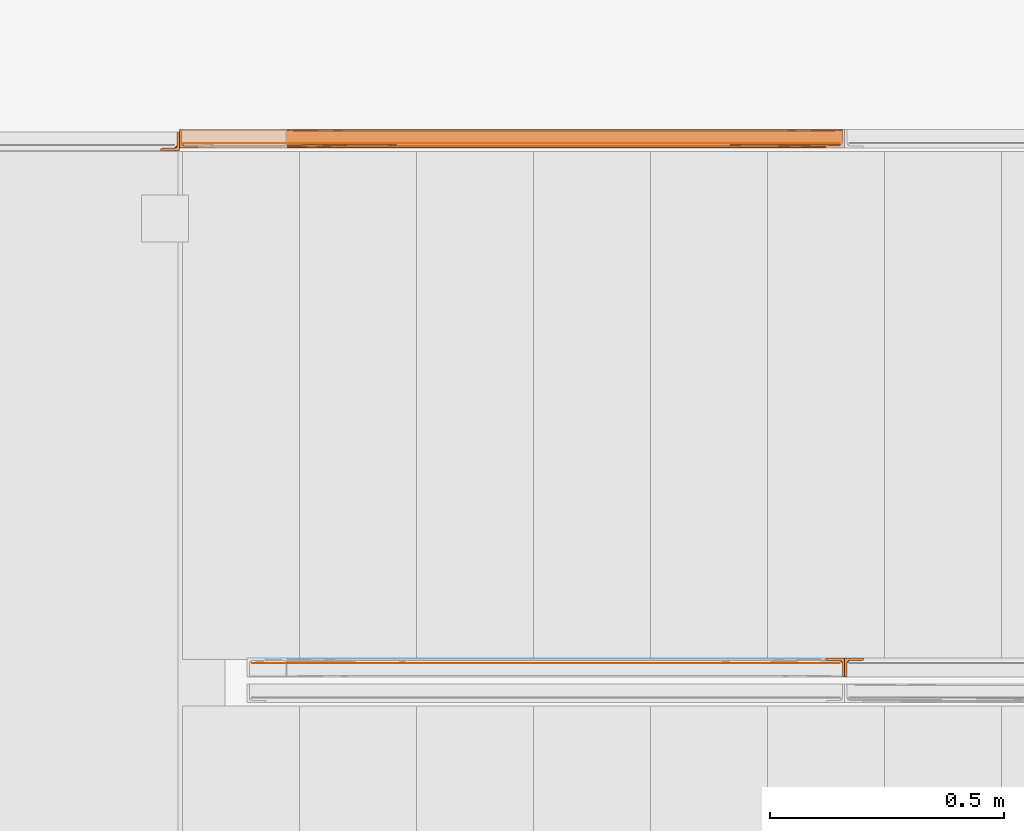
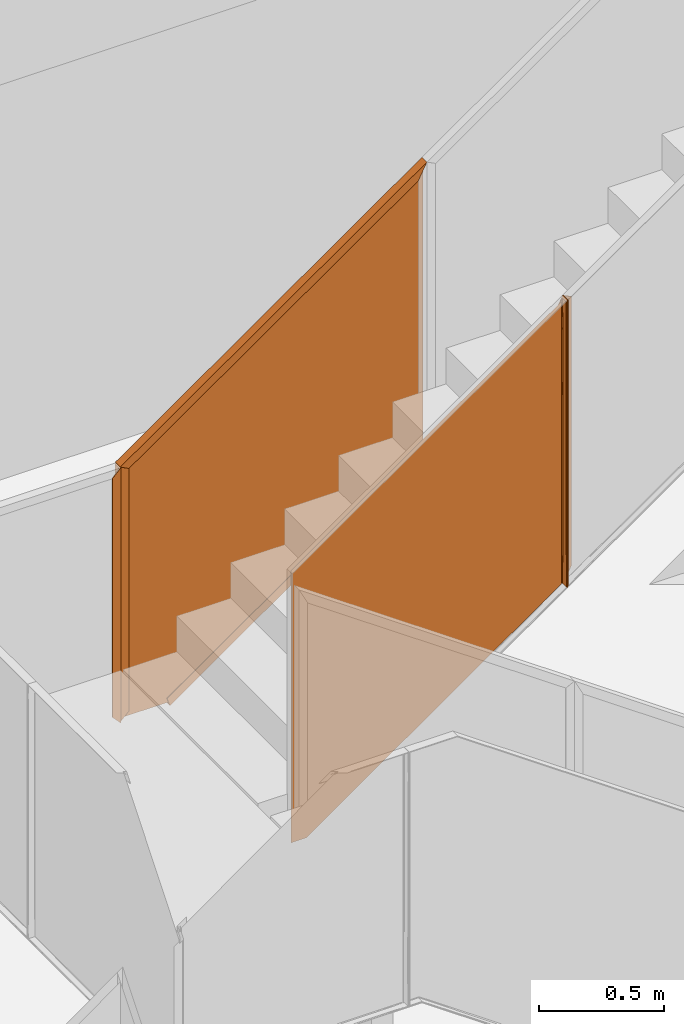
# One storey, part 221 of 230: 8 proxies.
"""IFC4X3_ADD2 building model written with IfcOpenShell, lengths in millimetres."""

from ifc_helpers import new_model, si_unit, direction, frame, origin_with_axes, place, context, subcontext, project, spatial, triangles, polygons, source, transform, mapped, material, type_object, type_shapes, element, save


model = new_model("IFC4X3_ADD2")

# Units and contexts
model_context = context("Model", 3, precision=1e-05, world=origin_with_axes(), true_north=direction((0.0, 1.0)))
body_context = subcontext(model_context, "Body", "Model", "MODEL_VIEW")
ifc_project = project(units=[si_unit("LENGTHUNIT", "METRE", prefix="MILLI"), si_unit("AREAUNIT", "SQUARE_METRE"), si_unit("VOLUMEUNIT", "CUBIC_METRE"), si_unit("PLANEANGLEUNIT", "RADIAN"), si_unit("TIMEUNIT", "SECOND"), si_unit("MASSUNIT", "GRAM")], contexts=[model_context])

# Site, building, storey
site_placement = place(None, origin_with_axes())
site = spatial("IfcSite", under=ifc_project, at=site_placement, Name="Site", CompositionType="ELEMENT")
building_placement = place(site_placement, origin_with_axes())
building = spatial("IfcBuilding", under=site, at=building_placement, Name="IFC Building Story")
storey_placement = place(building_placement, origin_with_axes())
storey = spatial("IfcBuildingStorey", under=building, at=storey_placement, Name="ETAGE 00 (0)", Elevation=0.0)

# Proxies
ifc_material = material(Name="<Unnamed>")
building_element_proxy_type_1 = type_object("IfcBuildingElementProxyType", Name="103", PredefinedType="NOTDEFINED")
shared_shape_1 = source(origin_with_axes(), body_context, "Body", "Tessellation", [
    polygons([(0.0, 2.00000000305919, 40.0), (1164.80653467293, 1.99999993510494, 857.856533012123), (1164.80653467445, 0.0, 857.856533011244), (0.0, 0.0, 40.0), (12.6119515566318, 0.0, 0.0), (12.6119515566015, 40.0, 0.0), (11.981353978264, 40.0, 2.00000000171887), (11.845982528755, 39.9646996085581, 2.4293433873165), (11.4159733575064, 39.3589417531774, 3.79315823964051), (11.1305348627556, 38.2618519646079, 4.69845348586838), (11.0354576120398, 36.9999999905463, 5.00000000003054), (11.0354576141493, 10.9999999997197, 4.99999999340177), (10.9889868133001, 9.73430308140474, 5.14738654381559), (10.6049429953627, 7.3011114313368, 6.3654179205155), (9.99395303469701, 5.70378055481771, 8.30323050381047), (9.14366488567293, 5.00000000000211, 10.9999999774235), (0.945896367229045, 5.000000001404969, 36.9999999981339), (0.8105277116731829, 4.96470079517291, 37.429334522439), (0.380518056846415, 4.35894457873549, 38.793150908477), (0.09507657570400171, 3.26184422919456, 39.6984556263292), (1204.80653467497, 40.0, 837.033850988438), (1202.80653467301, 40.0, 838.074985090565), (1053.95338708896, 40.0, 733.5656119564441), (160.834501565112, 40.0, 106.509373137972), (1204.80653467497, 0.0, 837.033850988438), (1167.39697500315, 4.96796925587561, 856.508035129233), (1165.95391269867, 4.32535068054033, 857.2592458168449), (1021.94895490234, 5.000000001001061, 753.8829778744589), (1165.08448212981, 3.23953783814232, 857.711842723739), (1167.80653468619, 5.00000000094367, 856.294831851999), (146.803651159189, 4.9996955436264, 139.411604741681), (897.281536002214, 4.99999999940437, 634.567812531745), (1193.80653468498, 4.999999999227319, 842.7600885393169), (902.61376541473, 10.9999999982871, 630.9775146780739), (1199.80653467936, 10.9999999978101, 839.636686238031), (1199.73424392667, 10.0780924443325, 839.674318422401), (899.961920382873, 7.98736429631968, 632.762071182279), (1198.82353729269, 7.76489731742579, 840.1484022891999), (1196.7581890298, 5.83075670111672, 841.223554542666), (306.973272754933, 7.98562322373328, 216.443502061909), (308.228226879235, 10.9999999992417, 213.659171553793), (603.456973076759, 7.97077391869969, 424.621195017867), (1199.8065346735, 36.9999999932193, 839.6366862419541), (1202.3961771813, 39.96799025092, 838.288603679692), (1200.9545983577, 39.3275120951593, 839.039042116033), (1200.08550223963, 38.2435199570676, 839.491464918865)], [[[1, 2, 3, 4]], [[17, 18, 19]], [[17, 19, 20]], [[17, 20, 1]], [[17, 1, 4]], [[4, 5, 16]], [[4, 16, 17]], [[5, 15, 16]], [[5, 14, 15]], [[5, 13, 14]], [[5, 12, 13]], [[5, 7, 8]], [[5, 8, 9]], [[5, 9, 10]], [[5, 10, 11]], [[5, 11, 12]], [[5, 6, 7]], [[24, 7, 6]], [[6, 23, 24]], [[6, 21, 23]], [[21, 22, 23]], [[5, 4, 3, 25]], [[26, 27, 28]], [[27, 29, 28]], [[28, 30, 26]], [[28, 29, 2]], [[2, 1, 31, 28]], [[1, 20, 31]], [[18, 17, 31]], [[31, 19, 18]], [[31, 20, 19]], [[32, 33, 30]], [[32, 30, 28]], [[31, 17, 16]], [[16, 32, 28]], [[16, 28, 31]], [[34, 35, 36]], [[36, 37, 34]], [[38, 39, 37]], [[37, 36, 38]], [[14, 13, 40]], [[41, 40, 13]], [[13, 12, 41]], [[15, 14, 40]], [[16, 15, 40]], [[40, 42, 32, 16]], [[33, 32, 37]], [[37, 39, 33]], [[42, 40, 41]], [[42, 41, 34]], [[34, 37, 42]], [[42, 37, 32]], [[41, 12, 11]], [[11, 34, 41]], [[11, 43, 34]], [[43, 35, 34]], [[44, 45, 23]], [[45, 46, 23]], [[23, 22, 44]], [[23, 46, 43]], [[43, 11, 24, 23]], [[11, 10, 24]], [[8, 7, 24]], [[24, 9, 8]], [[24, 10, 9]], [[6, 5, 25, 21]], [[22, 21, 25]], [[25, 35, 43]], [[25, 43, 46]], [[25, 46, 45]], [[25, 45, 44]], [[25, 44, 22]], [[25, 36, 35]], [[25, 38, 36]], [[25, 39, 38]], [[25, 33, 39]], [[25, 3, 30]], [[25, 30, 33]], [[3, 2, 29]], [[3, 29, 27]], [[3, 27, 26]], [[3, 26, 30]]]),
])
type_shapes(building_element_proxy_type_1, [shared_shape_1])
proxy_1_placement = place(storey_placement, frame((35131.8829430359, 2977.49996376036, 1660.0), z_axis=(0.0, 0.0, 1.0), x_axis=(1.0, 0.0, 0.0)))
element("IfcBuildingElementProxy", 1, at=proxy_1_placement, inside=storey, type_object=building_element_proxy_type_1, material=ifc_material, Name="52", ObjectType="52", context=body_context, shape_type="MappedRepresentation", body=[
    mapped(shared_shape_1, transform((0.0, 0.0, 0.0))),
])
building_element_proxy_type_2 = type_object("IfcBuildingElementProxyType", Name="153", PredefinedType="NOTDEFINED")
shared_shape_2 = source(origin_with_axes(), body_context, "Body", "Tessellation", [
    polygons([(4.42277587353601e-07, 40.0009010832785, 1332.74482679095), (4.4232523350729e-07, 38.0009010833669, 1332.74482679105), (5.57200110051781e-08, 38.0009010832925, 185.796894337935), (0.0, 38.0009010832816, 20.8226821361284), (0.0, 40.0009010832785, 20.8226821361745), (40.00000029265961, 0.0006917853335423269, 0.0), (38.0000011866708, 0.0, 1.04113363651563), (38.0000011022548, 0.00016314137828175, 177.788406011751), (38.0000005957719, 0.00114198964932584, 1238.27204018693), (38.0000005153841, 0.00129734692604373, 1406.58602109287), (40.0, 0.00199368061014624, 1410.47239973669), (40.00000043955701, 40.00090108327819, 1410.47239974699), (36.3467178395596, 0.281107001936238, 1403.37337999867), (35.4667239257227, 1.01508266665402, 1401.66338521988), (35.0903735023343, 1.98140044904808, 1400.93206509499), (35.0000004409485, 3.00090108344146, 1400.75645312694), (35.0000004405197, 29.0009010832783, 1400.75645312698), (34.6868942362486, 31.5942216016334, 1400.14802849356), (34.0963655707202, 32.9282815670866, 1399.00051949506), (33.5651403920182, 33.4854203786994, 1397.96824839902), (33.07562950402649, 33.9988100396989, 1397.01703606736), (31.7072711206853, 34.5021456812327, 1394.35805666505), (30.6440078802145, 34.8932554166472, 1392.29193488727), (29.7282128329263, 34.982978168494, 1390.51237172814), (29.0000004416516, 35.0009010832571, 1389.09731718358), (3.00000044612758, 35.0009010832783, 1338.57439476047), (1.33448367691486, 35.2814912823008, 1335.33798035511), (0.47237910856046, 35.9988992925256, 1333.66274796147), (0.09314658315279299, 36.959886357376, 1332.92582736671), (32.4612661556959, 31.5836981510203, 873.884858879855), (32.2870111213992, 31.7577010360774, 699.765883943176), (32.1306647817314, 31.9135198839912, 525.762111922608), (32.0383469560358, 32.0043205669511, 351.861812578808), (34.9979570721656, 28.9988891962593, 352.141239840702), (35.002398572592, 29.0032628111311, 876.4488464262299), (35.0000000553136, 29.0009010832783, 177.372037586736), (35.0000000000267, 29.0009010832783, 2.6028353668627), (34.1954201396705, 32.2358849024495, 3.02167313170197), (32.0617288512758, 32.0092459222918, 177.997269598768), (32.4803724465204, 34.0456118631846, 3.91447045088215), (30.9001291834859, 34.7491047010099, 4.737093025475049), (29.0000000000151, 35.0009010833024, 5.726237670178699), (29.0000000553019, 35.0009010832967, 178.647622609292), (35.0005034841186, 29.001196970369, 1051.2180485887), (34.901547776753, 29.2269708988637, 1225.85467705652), (31.6880616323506, 34.6325266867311, 1046.85348320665), (32.987223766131, 32.4238872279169, 1048.58413854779), (35.0000003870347, 29.0009010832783, 1225.987250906), (28.9992194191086, 35.0001089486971, 1043.25454730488), (3.00000000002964, 35.000901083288, 19.2609809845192), (3.00000005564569, 35.0009010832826, 185.164645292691), (3.0000003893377, 35.0009010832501, 1180.58663114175), (1.08111228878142, 35.612567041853, 20.2598907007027), (0.315375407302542, 36.5579746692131, 20.6585080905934), (36.0821918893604, 0.6104639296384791, 2.03948192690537), (35.0000000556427, 3.00090108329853, 178.420655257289), (35.3160064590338, 1.55572382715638, 2.4383328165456), (35.000000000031, 3.00090108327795, 2.60283536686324), (40.0, 40.00090108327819, 1.1410387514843e-07)], [[[3, 4, 5]], [[3, 5, 1]], [[1, 2, 3]], [[9, 10, 11]], [[11, 8, 9]], [[11, 6, 8]], [[6, 7, 8]], [[26, 27, 28]], [[26, 28, 29]], [[26, 29, 2]], [[26, 2, 1]], [[1, 12, 25]], [[1, 25, 26]], [[12, 24, 25]], [[12, 23, 24]], [[12, 22, 23]], [[12, 21, 22]], [[12, 20, 21]], [[12, 19, 20]], [[12, 18, 19]], [[12, 17, 18]], [[12, 10, 13]], [[12, 13, 14]], [[12, 14, 15]], [[12, 15, 16]], [[12, 16, 17]], [[12, 11, 10]], [[32, 33, 34]], [[34, 31, 32]], [[34, 35, 31]], [[35, 30, 31]], [[36, 37, 38]], [[38, 39, 36]], [[38, 40, 39]], [[40, 41, 39]], [[42, 43, 39]], [[39, 41, 42]], [[44, 45, 46, 47]], [[35, 30, 47]], [[20, 19, 48]], [[18, 17, 48]], [[48, 19, 18]], [[39, 33, 34]], [[32, 33, 43]], [[43, 31, 32]], [[43, 30, 31]], [[43, 49, 30]], [[25, 24, 46]], [[23, 22, 46]], [[46, 24, 23]], [[49, 46, 30]], [[46, 47, 30]], [[21, 20, 45]], [[45, 46, 22]], [[45, 22, 21]], [[46, 49, 25]], [[33, 39, 43]], [[34, 36, 39]], [[48, 45, 20]], [[47, 44, 35]], [[45, 48, 44]], [[43, 42, 50]], [[43, 50, 51]], [[51, 52, 49]], [[51, 49, 43]], [[52, 26, 25]], [[52, 25, 49]], [[53, 3, 51]], [[54, 4, 3]], [[3, 53, 54]], [[51, 50, 53]], [[52, 51, 3, 2]], [[2, 29, 52]], [[28, 27, 52]], [[52, 29, 28]], [[27, 26, 52]], [[55, 56, 8]], [[57, 58, 56]], [[56, 55, 57]], [[8, 7, 55]], [[9, 8, 56, 16]], [[16, 15, 9]], [[14, 13, 9]], [[9, 15, 14]], [[13, 10, 9]], [[12, 1, 5, 59]], [[59, 6, 11, 12]], [[48, 17, 16]], [[16, 44, 48]], [[16, 35, 44]], [[35, 16, 56]], [[56, 34, 35]], [[56, 36, 34]], [[56, 58, 37]], [[56, 37, 36]], [[37, 58, 57]], [[37, 57, 55]], [[37, 55, 7]], [[37, 7, 6]], [[37, 6, 59]], [[59, 38, 37]], [[59, 40, 38]], [[59, 41, 40]], [[59, 42, 41]], [[59, 5, 4]], [[59, 4, 54]], [[59, 54, 53]], [[59, 53, 50]], [[59, 50, 42]]]),
])
type_shapes(building_element_proxy_type_2, [shared_shape_2])
proxy_2_placement = place(storey_placement, frame((36296.6894777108, 1847.49906267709, 2507.03385087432), z_axis=(0.0, 0.0, 1.0), x_axis=(1.0, 0.0, 0.0)))
element("IfcBuildingElementProxy", 2, at=proxy_2_placement, inside=storey, type_object=building_element_proxy_type_2, material=ifc_material, Name="82", ObjectType="82", context=body_context, shape_type="MappedRepresentation", body=[
    mapped(shared_shape_2, transform((0.0, 0.0, 0.0))),
])
building_element_proxy_type_3 = type_object("IfcBuildingElementProxyType", Name="155", PredefinedType="NOTDEFINED")
shared_shape_3 = source(origin_with_axes(), body_context, "Body", "Tessellation", [
    polygons([(40.0, 40.000001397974, 76.8392850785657), (40.0, 38.0000013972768, 76.8392850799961), (40.0000004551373, 38.0000013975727, 1389.88768381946), (40.0000004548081, 40.000001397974, 1389.8876838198), (39.7213707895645, 36.7600301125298, 1390.03107163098), (38.8494314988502, 35.6724200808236, 1390.47978719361), (37.405197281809, 35.0313152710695, 1391.22301596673), (37.0000004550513, 35.0000013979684, 1391.4315375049), (11.0000004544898, 35.0000013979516, 1404.81160278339), (8.04045072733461, 34.1679815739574, 1406.33464003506), (5.97965068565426, 32.2340720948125, 1407.39516461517), (5.07065957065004, 29.9128861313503, 1407.86294770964), (5.00000045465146, 29.0000013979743, 1407.8993101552), (5.00000045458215, 3.00000139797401, 1407.89931015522), (4.71885062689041, 1.75022928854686, 1408.04399488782), (3.84773727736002, 0.667139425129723, 1408.49228540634), (2.40711706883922, 0.0312653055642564, 1409.23365434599), (2.00000030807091, 2.06117217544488e-05, 1409.44316391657), (4.05538071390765e-07, 3.03178033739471e-05, 1410.47239965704), (4.54678581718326e-07, 40.000001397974, 1410.47239963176), (2.00000028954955, 1.66343321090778e-05, 1233.74301390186), (2.00000017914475, 2.37633323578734e-06, 179.542114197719), (2.00000016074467, 0.0, 3.84196453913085), (1.23230279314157e-08, 9.640200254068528e-06, 0.0), (5.00000039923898, 29.000001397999, 1233.11251021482), (5.000000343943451, 29.0000013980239, 1058.32571027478), (5.00000012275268, 29.0000013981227, 359.178510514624), (5.00000006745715, 29.0000013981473, 184.391710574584), (5.00000001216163, 29.0000013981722, 9.60491063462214), (5.00000001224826, 3.00000139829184, 9.6049106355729), (10.997497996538, 35.0025443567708, 194.572347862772), (7.89890493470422, 31.9498808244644, 363.072218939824), (8.039691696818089, 32.0803852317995, 710.179382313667), (8.0629280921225, 32.0992396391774, 883.691629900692), (8.02210132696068, 32.0550551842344, 1057.45364170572), (11.0094582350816, 34.9903890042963, 1230.15073958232), (7.953902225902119, 32.0150531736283, 1231.64905297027), (9.22424123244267, 34.7498477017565, 191.800172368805), (7.63753256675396, 32.5974938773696, 189.000509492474), (9.38675135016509, 34.6254378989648, 18.0317815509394), (8.19333550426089, 34.34835103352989, 15.7392510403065), (7.40604262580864, 33.8031895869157, 14.2268754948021), (11.0000000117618, 35.0000013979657, 21.1308033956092), (6.55964525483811, 33.2171011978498, 12.6009612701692), (5.46901705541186, 31.5743496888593, 10.5058839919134), (5.060063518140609, 29.9951337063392, 9.72029155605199), (37.0000004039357, 35.0000013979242, 1226.3871376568), (37.0000000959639, 35.0000013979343, 236.120738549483), (37.000000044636, 35.0000013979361, 71.0763387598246), (39.9082051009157, 37.1612999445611, 76.6629486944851), (39.5766276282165, 36.3530431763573, 76.0259942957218), (38.1963335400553, 35.244925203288, 73.3744740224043), (1.22883761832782e-08, 40.00000139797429, 0.0), (4.90505204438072, 2.14444285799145, 9.42251728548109), (4.56937355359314, 1.33135548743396, 8.7776849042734), (3.19823281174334, 0.238019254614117, 6.143748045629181)], [[[1, 2, 3, 4]], [[18, 19, 20]], [[20, 13, 14]], [[20, 14, 15]], [[20, 15, 16]], [[20, 16, 17]], [[20, 17, 18]], [[20, 12, 13]], [[20, 11, 12]], [[20, 10, 11]], [[20, 9, 10]], [[20, 4, 8]], [[20, 8, 9]], [[4, 3, 5]], [[4, 5, 6]], [[4, 6, 7]], [[4, 7, 8]], [[22, 23, 24]], [[24, 21, 22]], [[24, 19, 21]], [[19, 18, 21]], [[28, 29, 30]], [[30, 27, 28]], [[30, 26, 27]], [[30, 14, 26]], [[14, 25, 26]], [[14, 13, 25]], [[34, 35, 36]], [[36, 33, 34]], [[36, 32, 33]], [[36, 31, 32]], [[33, 32, 27]], [[27, 34, 33]], [[27, 26, 34]], [[26, 35, 34]], [[9, 36, 37]], [[37, 10, 9]], [[25, 13, 12]], [[12, 37, 25]], [[11, 10, 37]], [[37, 12, 11]], [[31, 38, 32]], [[38, 39, 32]], [[40, 41, 39]], [[39, 38, 40]], [[41, 42, 39]], [[43, 40, 38]], [[39, 28, 27]], [[42, 44, 28]], [[45, 46, 28]], [[46, 29, 28]], [[28, 44, 45]], [[37, 35, 26]], [[35, 37, 36]], [[26, 25, 37]], [[28, 39, 42]], [[27, 32, 39]], [[38, 31, 43]], [[36, 9, 8]], [[36, 8, 47]], [[47, 48, 31]], [[47, 31, 36]], [[48, 49, 43]], [[48, 43, 31]], [[7, 6, 47]], [[6, 5, 47]], [[47, 8, 7]], [[47, 5, 3]], [[3, 2, 48, 47]], [[2, 50, 48]], [[51, 52, 48]], [[48, 50, 51]], [[52, 49, 48]], [[53, 1, 4, 20]], [[20, 19, 24, 53]], [[17, 16, 21]], [[16, 15, 21]], [[21, 18, 17]], [[21, 15, 14]], [[14, 30, 22, 21]], [[30, 54, 22]], [[55, 56, 22]], [[22, 54, 55]], [[56, 23, 22]], [[49, 52, 51]], [[49, 51, 50]], [[49, 50, 2]], [[49, 2, 1]], [[1, 53, 43]], [[1, 43, 49]], [[53, 40, 43]], [[53, 41, 40]], [[53, 42, 41]], [[53, 44, 42]], [[53, 45, 44]], [[53, 46, 45]], [[53, 29, 46]], [[53, 23, 56]], [[53, 56, 55]], [[53, 55, 54]], [[53, 54, 30]], [[53, 30, 29]], [[53, 24, 23]]]),
])
type_shapes(building_element_proxy_type_3, [shared_shape_3])
proxy_3_placement = place(storey_placement, frame((36336.6894776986, 1847.49996236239, 2507.03385098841), z_axis=(0.0, 0.0, 1.0), x_axis=(1.0, 0.0, 0.0)))
element("IfcBuildingElementProxy", 3, at=proxy_3_placement, inside=storey, type_object=building_element_proxy_type_3, material=ifc_material, Name="83", ObjectType="83", context=body_context, shape_type="MappedRepresentation", body=[
    mapped(shared_shape_3, transform((0.0, 0.0, 0.0))),
])
building_element_proxy_type_4 = type_object("IfcBuildingElementProxyType", Name="165", PredefinedType="NOTDEFINED")
shared_shape_4 = source(origin_with_axes(), body_context, "Body", "Tessellation", [
    triangles([(0.0, 0.0, 0.0), (70.8371296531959, 0.0, 0.0), (1255.49999955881, 0.0, 831.7600885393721), (1255.4999999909, 0.0, 2215.13116805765), (0.0, 0.0, 1334.85211530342)], [[1, 2, 3], [1, 3, 4], [1, 4, 5]]),
])
type_shapes(building_element_proxy_type_4, [shared_shape_4])
proxy_4_placement = place(storey_placement, frame((35070.1894781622, 1876.49996375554, 1680.99999999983), z_axis=(0.0, 0.0, 1.0), x_axis=(1.0, 0.0, 0.0)))
element("IfcBuildingElementProxy", 4, at=proxy_4_placement, inside=storey, type_object=building_element_proxy_type_4, material=ifc_material, Name="88", ObjectType="88", context=body_context, shape_type="MappedRepresentation", body=[
    mapped(shared_shape_4, transform((0.0, 0.0, 0.0))),
])
building_element_proxy_type_5 = type_object("IfcBuildingElementProxyType", Name="175", PredefinedType="NOTDEFINED")
shared_shape_5 = source(origin_with_axes(), body_context, "Body", "Tessellation", [
    polygons([(0.0, 2.00000000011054, 40.0), (0.0, 1.9999999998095, 1210.0), (0.0, 0.0, 1210.0), (0.0, 0.0, 40.0), (38.0000000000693, 0.0, 0.0), (38.0000000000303, 40.0, 0.0), (36.4932918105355, 39.6219260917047, 1.58600862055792), (35.3911113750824, 38.5300254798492, 2.74619855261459), (35.0520013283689, 37.5839856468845, 3.10315649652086), (35.000000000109, 37.0, 3.15789473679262), (35.000000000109, 11.0, 3.15789473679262), (34.4323186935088, 8.35650851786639, 3.75545400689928), (33.1669455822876, 6.597134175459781, 5.08742570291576), (31.2456843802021, 5.400557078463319, 7.109805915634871), (29.0000000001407, 4.99999999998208, 9.47368421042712), (3.0000000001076, 5.00000000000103, 36.8421052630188), (1.49329180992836, 4.62192609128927, 38.4281138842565), (0.391111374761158, 3.53002547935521, 39.5883038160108), (0.05200132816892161, 2.58398564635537, 39.9452617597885), (40.0, 0.0, 0.0), (40.0, 40.0, 0.0), (35.000000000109, 37.0, 313.618421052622), (35.000000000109, 37.0, 1244.99999999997), (35.000000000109, 11.0, 1244.99999999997), (35.000000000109, 11.0, 934.539473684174), (35.000000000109, 11.0, 624.07894736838), (35.000000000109, 11.0, 313.618421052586), (40.0, 0.0, 1250.0), (0.947512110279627, 4.22997836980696, 1210.94751210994), (0.295147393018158, 3.3451112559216, 1210.29514739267), (3.0000000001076, 5.0, 918.96052631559), (3.0000000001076, 5.0, 1212.99999999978), (3.00000000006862, 5.00000000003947, 330.881578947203), (29.00000000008, 5.00000000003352, 931.618421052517), (29.0000000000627, 5.00000000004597, 1238.99999999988), (31.9210373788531, 5.70547924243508, 1241.9210373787), (30.9601866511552, 5.30081986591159, 1240.96018665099), (32.1333421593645, 8.093872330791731, 933.14391763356), (32.1461947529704, 8.12623497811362, 315.152471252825), (32.0108407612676, 7.991564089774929, 624.15734856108), (34.417077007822, 8.32391448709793, 1244.41707700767), (33.4621327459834, 6.89689057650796, 1243.46213274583), (33.2723823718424, 6.75019573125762, 1243.27238237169), (35.9475121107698, 39.2299783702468, 1245.94751211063), (35.2951473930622, 38.3451112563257, 1245.29514739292), (38.0000000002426, 40.0, 936.000000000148), (38.0000000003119, 40.0, 1248.00000000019), (38.00000000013, 40.0, 312.000000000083), (40.0, 40.0, 1250.0)], [[[1, 2, 3, 4]], [[15, 16, 17]], [[15, 17, 18]], [[15, 18, 19]], [[15, 19, 1]], [[15, 1, 4]], [[15, 4, 5]], [[5, 14, 15]], [[5, 13, 14]], [[5, 12, 13]], [[5, 11, 12]], [[5, 6, 7]], [[5, 7, 8]], [[5, 8, 9]], [[5, 9, 10]], [[5, 10, 11]], [[5, 20, 21, 6]], [[26, 27, 22]], [[22, 25, 26]], [[22, 23, 25]], [[23, 24, 25]], [[27, 11, 10]], [[27, 10, 22]], [[20, 5, 4]], [[20, 4, 3]], [[20, 3, 28]], [[29, 30, 31]], [[31, 32, 29]], [[31, 30, 2]], [[2, 1, 33, 31]], [[19, 18, 33]], [[33, 1, 19]], [[17, 16, 33]], [[33, 18, 17]], [[34, 35, 32]], [[34, 32, 31]], [[33, 16, 15]], [[33, 15, 34]], [[34, 31, 33]], [[36, 37, 38]], [[35, 34, 38]], [[38, 37, 35]], [[15, 14, 39]], [[39, 40, 34, 15]], [[39, 14, 13]], [[13, 12, 27]], [[12, 11, 27]], [[41, 42, 25]], [[43, 38, 25]], [[25, 42, 43]], [[38, 40, 26]], [[26, 25, 38]], [[40, 38, 34]], [[25, 24, 41]], [[27, 39, 13]], [[27, 26, 40, 39]], [[38, 43, 36]], [[44, 45, 46]], [[46, 47, 44]], [[46, 45, 23]], [[23, 22, 48, 46]], [[9, 8, 22]], [[22, 10, 9]], [[8, 48, 22]], [[7, 6, 48]], [[48, 8, 7]], [[21, 20, 28, 49]], [[24, 23, 45]], [[24, 45, 44]], [[24, 44, 47]], [[24, 47, 49]], [[24, 49, 28]], [[28, 41, 24]], [[28, 42, 41]], [[28, 43, 42]], [[28, 36, 43]], [[28, 37, 36]], [[28, 35, 37]], [[28, 3, 2]], [[28, 2, 30]], [[28, 30, 29]], [[28, 29, 32]], [[28, 32, 35]], [[48, 6, 21]], [[21, 46, 48]], [[21, 49, 46]], [[49, 47, 46]]]),
])
type_shapes(building_element_proxy_type_5, [shared_shape_5])
proxy_5_placement = place(storey_placement, frame((34874.5206959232, 2972.49996364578, 1660.0), z_axis=(0.0, 0.0, 1.0), x_axis=(1.0, 0.0, 0.0)))
element("IfcBuildingElementProxy", 5, at=proxy_5_placement, inside=storey, type_object=building_element_proxy_type_5, material=ifc_material, Name="97", ObjectType="97", context=body_context, shape_type="MappedRepresentation", body=[
    mapped(shared_shape_5, transform((0.0, 0.0, 0.0))),
])
building_element_proxy_type_6 = type_object("IfcBuildingElementProxyType", Name="177", PredefinedType="NOTDEFINED")
shared_shape_6 = source(origin_with_axes(), body_context, "Body", "Tessellation", [
    triangles([(7.46771722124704, 0.0, 0.0), (222.973629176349, 0.0, 0.0), (1407.63649900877, 0.0, 831.760088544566), (1407.63649945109, 0.0, 2215.13116805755), (0.0, 0.0, 1228.00938414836)], [[1, 2, 3], [1, 3, 4], [1, 4, 5]]),
])
type_shapes(building_element_proxy_type_6, [shared_shape_6])
proxy_6_placement = place(storey_placement, frame((34918.0529787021, 2988.49996650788, 1670.99999999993), z_axis=(0.0, 0.0, 1.0), x_axis=(1.0, 0.0, 0.0)))
element("IfcBuildingElementProxy", 6, at=proxy_6_placement, inside=storey, type_object=building_element_proxy_type_6, material=ifc_material, Name="98", ObjectType="98", context=body_context, shape_type="MappedRepresentation", body=[
    mapped(shared_shape_6, transform((0.0, 0.0, 0.0))),
])
building_element_proxy_type_7 = type_object("IfcBuildingElementProxyType", Name="191", PredefinedType="NOTDEFINED")
shared_shape_7 = source(origin_with_axes(), body_context, "Body", "Tessellation", [
    polygons([(40.0, 2.00000000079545, 0.0), (39.5486567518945, 3.67725873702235, 0.236191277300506), (38.7197191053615, 4.50931448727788, 0.6699805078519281), (36.9992452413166, 5.0000028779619, 1.57031726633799), (10.997884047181, 5.00001248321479, 15.1770228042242), (8.39727609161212, 5.53660746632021, 16.5379402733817), (5.96348693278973, 7.53293837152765, 17.8115602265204), (5.054583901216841, 9.99229770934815, 18.2871959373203), (4.998845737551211, 11.0000000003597, 18.3163641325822), (4.998845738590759, 36.9999999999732, 18.3163641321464), (4.82331689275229, 38.1142597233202, 18.4082196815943), (3.88454982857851, 39.3904619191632, 18.8994834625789), (2.72090216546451, 39.9144048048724, 19.5084289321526), (1.99950012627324, 40.0, 19.8859439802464), (0.0, 40.0, 20.9322972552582), (0.0, 0.0, 20.9322972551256), (40.0, 0.0, 0.0), (179.146683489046, 40.0, 144.132268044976), (1250.17336867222, 40.0, 895.321906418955), (1420.16878223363, 40.0, 1014.55216931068), (1422.1687822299, 40.0, 1018.43854795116), (1422.1687822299, 0.0, 1018.43854795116), (1418.70763533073, 39.75682271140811, 1011.71288424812), (1417.56136798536, 38.7806408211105, 1009.4854697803), (1417.22647393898, 37.7761662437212, 1008.83470724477), (1417.16878222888, 36.9999999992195, 1008.72260132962), (1417.1687822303, 10.9999999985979, 1008.72260133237), (1416.86542166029, 8.59549005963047, 1008.13311431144), (1416.11306753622, 7.01275994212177, 1006.67114780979), (1415.64210876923, 6.58054126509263, 1005.75598576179), (1414.8523275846, 5.85572584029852, 1004.22129139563), (1413.77363989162, 5.57204539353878, 1002.12519698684), (1411.63661531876, 5.01003649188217, 997.9725536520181), (1411.16878223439, 5.000005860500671, 997.063465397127), (1385.16878222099, 4.99999561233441, 946.5405429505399), (1383.71320549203, 4.756927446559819, 943.7120817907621), (1382.55890291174, 3.77235012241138, 941.4690533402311), (1382.22552825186, 2.76762014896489, 940.821243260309), (1382.16878222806, 1.99999999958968, 940.710974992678), (1382.16878223, 0.0, 940.7109749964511), (179.613933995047, 37.0040234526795, 140.775422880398), (1059.25651831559, 4.99440371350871, 750.2874953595), (885.126551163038, 8.54656981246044, 632.614931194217), (178.998270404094, 8.11889296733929, 136.861759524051), (1063.27798358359, 10.9999999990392, 760.5260881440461), (1061.73692427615, 8.613320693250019, 756.597375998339), (1238.59422560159, 7.739720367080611, 881.040994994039), (886.3325842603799, 10.9999999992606, 636.427831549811), (1240.2233829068, 10.9999999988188, 884.62434473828), (1235.214219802, 5.00000669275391, 873.673242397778), (1237.39154145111, 5.38168034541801, 878.4256779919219), (199.453676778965, 5.00000186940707, 115.439231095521), (1222.71437003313, 4.99999635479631, 832.67164268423), (199.875658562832, 2.00000000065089, 112.05504749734)], [[[9, 10, 11]], [[9, 11, 12]], [[9, 12, 13]], [[9, 13, 14]], [[9, 14, 15]], [[9, 15, 16]], [[16, 8, 9]], [[16, 7, 8]], [[16, 6, 7]], [[16, 5, 6]], [[16, 17, 1]], [[16, 1, 2]], [[16, 2, 3]], [[16, 3, 4]], [[16, 4, 5]], [[19, 20, 21]], [[21, 18, 19]], [[21, 15, 18]], [[15, 14, 18]], [[21, 22, 16, 15]], [[35, 36, 37]], [[35, 37, 38]], [[35, 38, 39]], [[35, 39, 40]], [[40, 22, 34]], [[40, 34, 35]], [[22, 33, 34]], [[22, 32, 33]], [[22, 31, 32]], [[22, 30, 31]], [[22, 29, 30]], [[22, 28, 29]], [[22, 27, 28]], [[22, 20, 23]], [[22, 23, 24]], [[22, 24, 25]], [[22, 25, 26]], [[22, 26, 27]], [[22, 21, 20]], [[26, 41, 18, 19]], [[12, 11, 18]], [[18, 13, 12]], [[18, 14, 13]], [[41, 18, 11]], [[11, 10, 41]], [[26, 25, 19]], [[24, 23, 19]], [[19, 25, 24]], [[23, 20, 19]], [[42, 43, 44, 5]], [[45, 46, 47]], [[46, 45, 48]], [[30, 29, 49]], [[28, 27, 49]], [[49, 29, 28]], [[50, 51, 46]], [[46, 42, 50]], [[51, 47, 46]], [[42, 46, 43]], [[34, 33, 51]], [[33, 32, 51]], [[32, 31, 47]], [[47, 51, 32]], [[31, 30, 47]], [[44, 6, 5]], [[44, 43, 48, 9]], [[9, 8, 44]], [[7, 6, 44]], [[44, 8, 7]], [[51, 50, 34]], [[49, 47, 30]], [[48, 43, 46]], [[47, 49, 45]], [[49, 27, 26]], [[26, 45, 49]], [[26, 48, 45]], [[41, 10, 9]], [[48, 26, 41]], [[41, 9, 48]], [[53, 35, 34]], [[53, 34, 50]], [[42, 5, 52]], [[42, 52, 53]], [[53, 50, 42]], [[5, 4, 52]], [[54, 1, 17]], [[54, 17, 40]], [[40, 39, 54]], [[54, 52, 53, 39]], [[3, 2, 54, 52]], [[2, 1, 54]], [[39, 38, 53]], [[37, 36, 53]], [[53, 38, 37]], [[36, 35, 53]], [[52, 4, 3]], [[16, 22, 40, 17]]]),
])
type_shapes(building_element_proxy_type_7, [shared_shape_7])
proxy_7_placement = place(storey_placement, frame((34914.5206959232, 2977.49996376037, 2889.06770274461), z_axis=(0.0, 0.0, 1.0), x_axis=(1.0, 0.0, 0.0)))
element("IfcBuildingElementProxy", 7, at=proxy_7_placement, inside=storey, type_object=building_element_proxy_type_7, material=ifc_material, Name="105", ObjectType="105", context=body_context, shape_type="MappedRepresentation", body=[
    mapped(shared_shape_7, transform((0.0, 0.0, 0.0))),
])
building_element_proxy_type_8 = type_object("IfcBuildingElementProxyType", Name="193", PredefinedType="NOTDEFINED")
shared_shape_8 = source(origin_with_axes(), body_context, "Body", "Tessellation", [
    triangles([(34954.5199035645, 2977.49994277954, 2889.06784057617), (34954.5199035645, 2979.50011138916, 2889.06784057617), (34954.5199035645, 2977.49994277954, 1700.00001296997), (34954.5199035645, 2979.50011138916, 1700.00001296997), (34952.0223815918, 2982.45051269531, 1697.50176429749), (34953.6850708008, 2981.58021697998, 1699.16401748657), (34954.3408447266, 2980.56167449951, 1699.81906471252), (34951.5200866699, 2982.49992828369, 1697.00005073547), (34925.521673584, 2982.49992828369, 1671.00003890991), (34914.5200195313, 2977.49994277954, 1659.9999835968), (34923.6915527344, 2982.81473464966, 1669.17166213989), (34921.9893310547, 2983.67311248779, 1667.46769638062), (34921.6335388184, 2983.99518585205, 1667.11263084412), (34920.8731201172, 2984.6846786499, 1666.35221214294), (34919.5197143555, 2988.49985275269, 1664.99996910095), (34919.5197143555, 3014.50000991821, 1664.99996910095), (34914.5200195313, 3017.49982681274, 1659.9999835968), (34919.91271362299, 2986.29795227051, 1665.39151496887), (34918.6848815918, 3016.58011550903, 1664.16397361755), (34917.0221923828, 3017.45041122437, 1662.50172042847), (34916.5198974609, 3017.49982681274, 1662.00000686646), (34919.3406555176, 3015.56157302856, 1664.81902084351), (34914.5200195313, 3017.49982681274, 2909.99999313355), (34914.5200195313, 2977.49994277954, 2909.99999313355), (34916.5198974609, 3017.49982681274, 2760.83729553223), (34916.5198974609, 3017.49982681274, 2908.95325469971), (34916.5198974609, 3017.49982681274, 1818.97676239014), (34919.5197143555, 3014.50000991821, 2907.38358306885), (34919.1871765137, 3015.91998138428, 2907.5577003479), (34916.6919799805, 3017.49110641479, 2908.86430664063), (34918.5034973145, 3016.74289627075, 2907.91610870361), (34919.5197143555, 2988.49985275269, 2907.38358306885), (34919.5197143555, 2988.49985275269, 2604.45236434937), (34919.5197143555, 2988.49985275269, 2291.30142059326), (34919.5197143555, 2988.49985275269, 1978.15076751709), (34922.5218566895, 2985.46108474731, 2602.65770645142), (34922.5032531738, 2985.49916381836, 1980.28072471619), (34922.6078979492, 2985.39364700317, 2291.53759803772), (34925.521673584, 2982.49992828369, 2600.86915283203), (34919.8010925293, 2986.55229721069, 2907.23678970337), (34921.4498291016, 2984.10419082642, 2906.37405166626), (34925.521673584, 2982.49992828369, 2904.24365844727), (34923.4776123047, 2982.90891494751, 2905.31248855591), (34921.5823791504, 2984.02657928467, 2906.30516052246), (34951.5200866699, 2982.49992828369, 2748.92232513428), (34951.5200866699, 2982.49992828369, 2890.63751220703), (34951.5200866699, 2982.49992828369, 1847.27459907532), (34954.1803894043, 2980.9299659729, 2889.2454460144), (34951.6805419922, 2982.49237060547, 2890.55437774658), (34953.4874084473, 2981.75636901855, 2889.60821456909)], [[1, 2, 3], [4, 3, 2], [3, 4, 5], [6, 5, 4], [6, 4, 7], [3, 5, 8], [3, 9, 10], [9, 3, 8], [11, 12, 10], [9, 11, 10], [10, 12, 13], [13, 14, 10], [15, 16, 17], [18, 15, 10], [14, 18, 10], [19, 20, 16], [17, 16, 21], [16, 20, 21], [22, 19, 16], [15, 17, 10], [23, 24, 17], [10, 17, 24], [23, 25, 26], [25, 23, 27], [27, 17, 21], [17, 27, 23], [19, 22, 27], [27, 20, 19], [27, 21, 20], [27, 22, 16], [27, 16, 28], [28, 25, 27], [25, 28, 29], [25, 30, 26], [25, 31, 30], [25, 29, 31], [32, 28, 33], [33, 28, 34], [34, 16, 35], [16, 34, 28], [15, 35, 16], [34, 36, 33], [18, 14, 35], [13, 37, 35], [35, 14, 13], [38, 39, 36], [37, 9, 38], [39, 38, 9], [37, 11, 9], [37, 12, 11], [33, 40, 32], [33, 41, 40], [36, 42, 43], [42, 36, 39], [36, 43, 44], [44, 33, 36], [35, 37, 34], [38, 34, 37], [37, 13, 12], [35, 15, 18], [34, 38, 36], [42, 45, 46], [45, 42, 39], [39, 9, 47], [8, 47, 9], [39, 47, 45], [6, 7, 47], [47, 5, 6], [47, 8, 5], [47, 7, 4], [47, 4, 2], [2, 45, 47], [45, 2, 48], [45, 49, 46], [45, 50, 49], [45, 48, 50], [24, 1, 3], [3, 10, 24], [46, 1, 2], [48, 50, 2], [49, 2, 50], [42, 1, 46], [24, 42, 43], [24, 1, 42], [24, 43, 44], [46, 2, 49], [28, 29, 31], [30, 26, 28], [30, 28, 31], [28, 26, 23], [32, 23, 24], [32, 24, 40], [28, 23, 32], [41, 40, 24]]),
])
type_shapes(building_element_proxy_type_8, [shared_shape_8])
proxy_8_placement = place(storey_placement, origin_with_axes())
element("IfcBuildingElementProxy", 8, at=proxy_8_placement, inside=storey, type_object=building_element_proxy_type_8, material=ifc_material, Name="106", ObjectType="106", context=body_context, shape_type="MappedRepresentation", body=[
    mapped(shared_shape_8, transform((0.0, 0.0, 0.0))),
])

save(model, "model.ifc")
